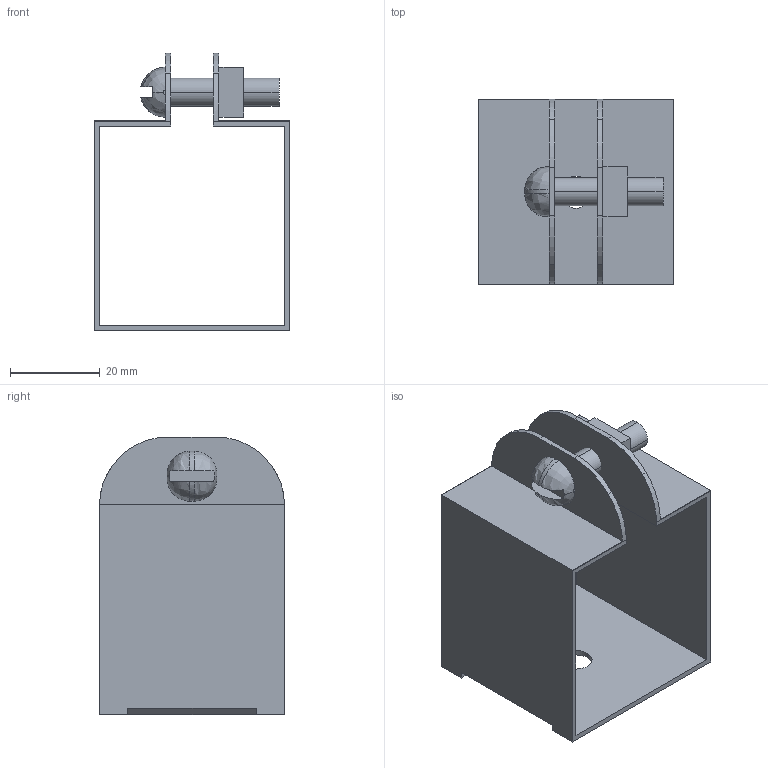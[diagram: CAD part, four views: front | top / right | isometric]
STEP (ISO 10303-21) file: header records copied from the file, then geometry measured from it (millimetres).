
FILE_DESCRIPTION(('TurboCAD Mac Pro'),'Build 980');
FILE_NAME('P2539.stp',' ',(''),(''),'ACIS Interop','IMSI','TurboCAD Mac Pro BY IMSI, INCORPORATED');
FILE_SCHEMA(('automotive_design'));
Length unit declared in the file: inch
Products named in the file (3): 1; 2; 3
Bounding box: 43.71 x 41.27 x 61.97 mm (x, y, z)
Volume: 11200.4 mm3; surface area: 17694 mm2
Topology: 3 solids, 3 shells, 63 faces, 168 edges, 112 vertices
Faces by surface type: plane 37, bspline 18, cylinder 8
Entity records: 4009 total; most frequent: CARTESIAN_POINT 1977, ORIENTED_EDGE 336, DIRECTION 238, EDGE_CURVE 168, VERTEX_POINT 112, LINE 102, VECTOR 102, AXIS2_PLACEMENT_3D 68
